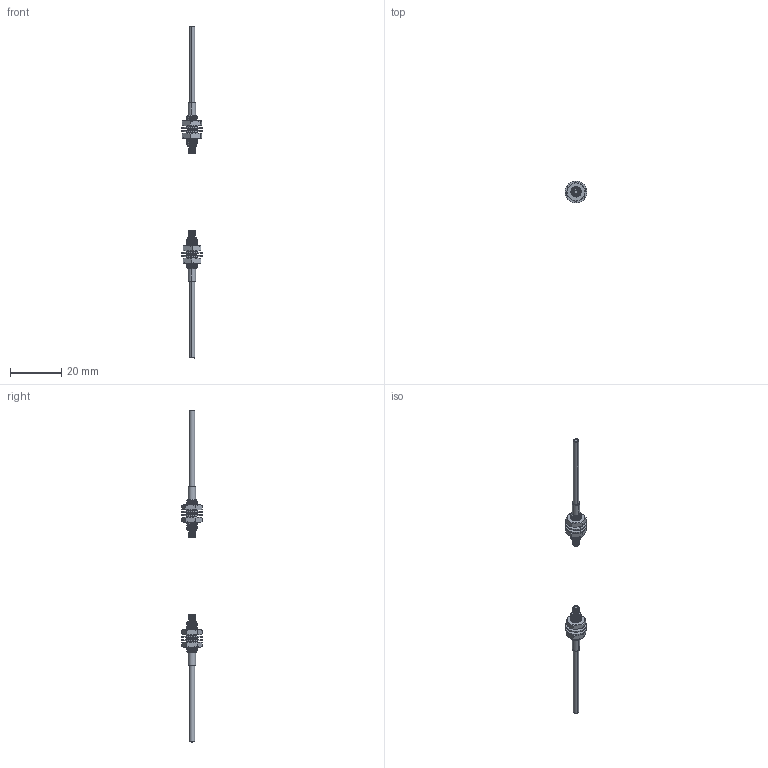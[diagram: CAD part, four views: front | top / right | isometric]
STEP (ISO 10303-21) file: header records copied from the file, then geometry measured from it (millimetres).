
FILE_DESCRIPTION (( 'STEP AP214' ), '1' );
FILE_NAME ('FT-420-15H1.STEP', '2019-06-18T02:27:19', ( '' ), ( '' ), 'SwSTEP 2.0', 'SolidWorks 2018', '' );
FILE_SCHEMA (( 'AUTOMOTIVE_DESIGN' ));
Length unit declared in the file: millimetre
Products named in the file (1): FT-420-15H1
Bounding box: 8.5 x 8.5 x 130 mm (x, y, z)
Volume: 884.6 mm3; surface area: 2061.2 mm2
Topology: 10 solids, 10 shells, 426 faces, 1142 edges, 742 vertices
Faces by surface type: cylinder 186, plane 122, cone 90, bspline 28
Entity records: 23293 total; most frequent: CARTESIAN_POINT 13179, ORIENTED_EDGE 2284, DIRECTION 1836, EDGE_CURVE 1142, VERTEX_POINT 742, AXIS2_PLACEMENT_3D 695, EDGE_LOOP 456, LINE 446
